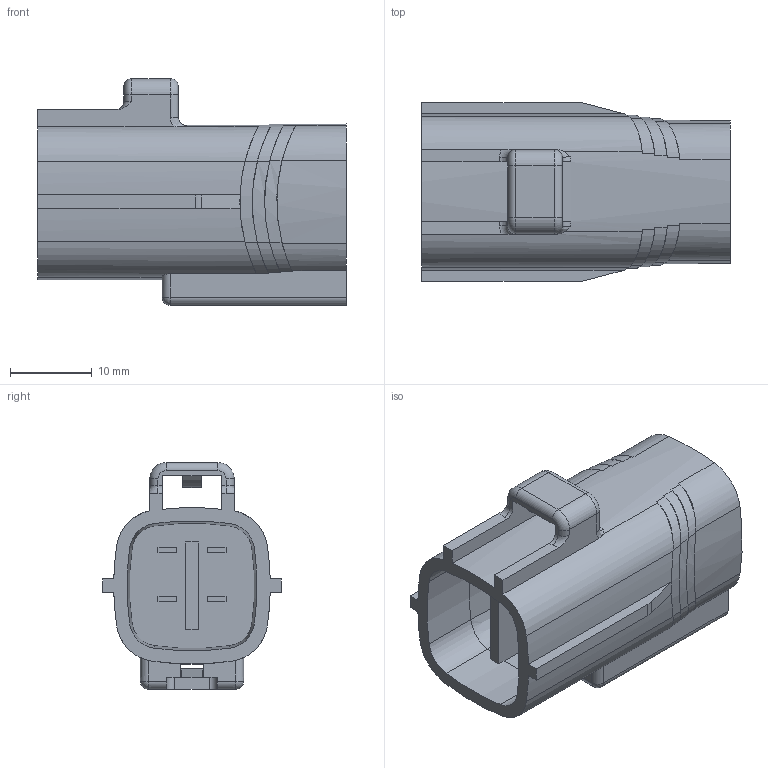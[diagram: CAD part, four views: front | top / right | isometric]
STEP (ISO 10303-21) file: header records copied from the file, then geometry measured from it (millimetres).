
FILE_DESCRIPTION(('CATIA V5 STEP Exchange'),'2;1');
FILE_NAME('N:\C-DAM_MyDesk\ENV\900093\6188-0066.stp','2013-08-20T06:28:21+00:00',('none'),('none'),'CATIA Version 5 Release 20 SP 4 (IN-10)','CATIA V5 STEP AP203','none');
FILE_SCHEMA(('CONFIG_CONTROL_DESIGN'));
Length unit declared in the file: millimetre
Products named in the file (1): 6188-0066
Bounding box: 37.7 x 21.8 x 27.7 mm (x, y, z)
Volume: 9828.8 mm3; surface area: 5218.9 mm2
Topology: 1 solids, 1 shells, 192 faces, 520 edges, 334 vertices
Faces by surface type: plane 90, cylinder 80, cone 8, torus 8, bspline 4, sphere 2
Entity records: 6096 total; most frequent: CARTESIAN_POINT 1543, ORIENTED_EDGE 1036, DIRECTION 749, EDGE_CURVE 518, VERTEX_POINT 334, VECTOR 307, LINE 307, AXIS2_PLACEMENT_3D 285
